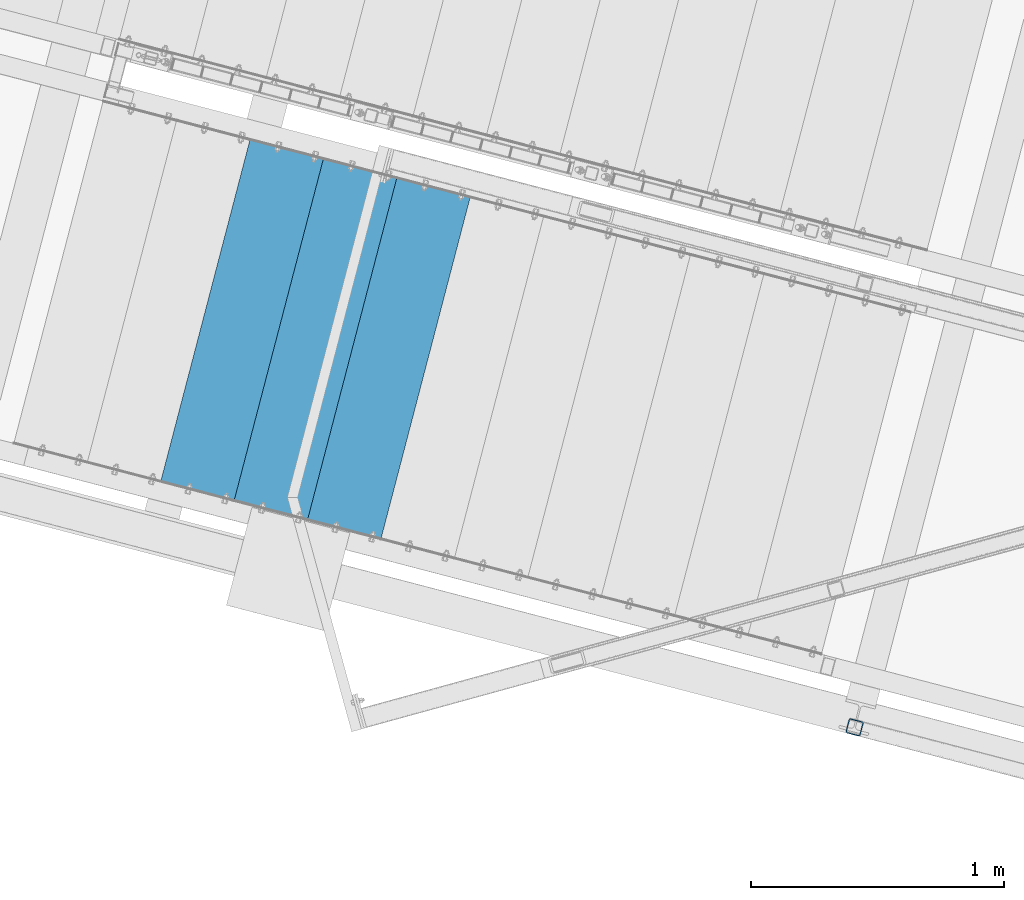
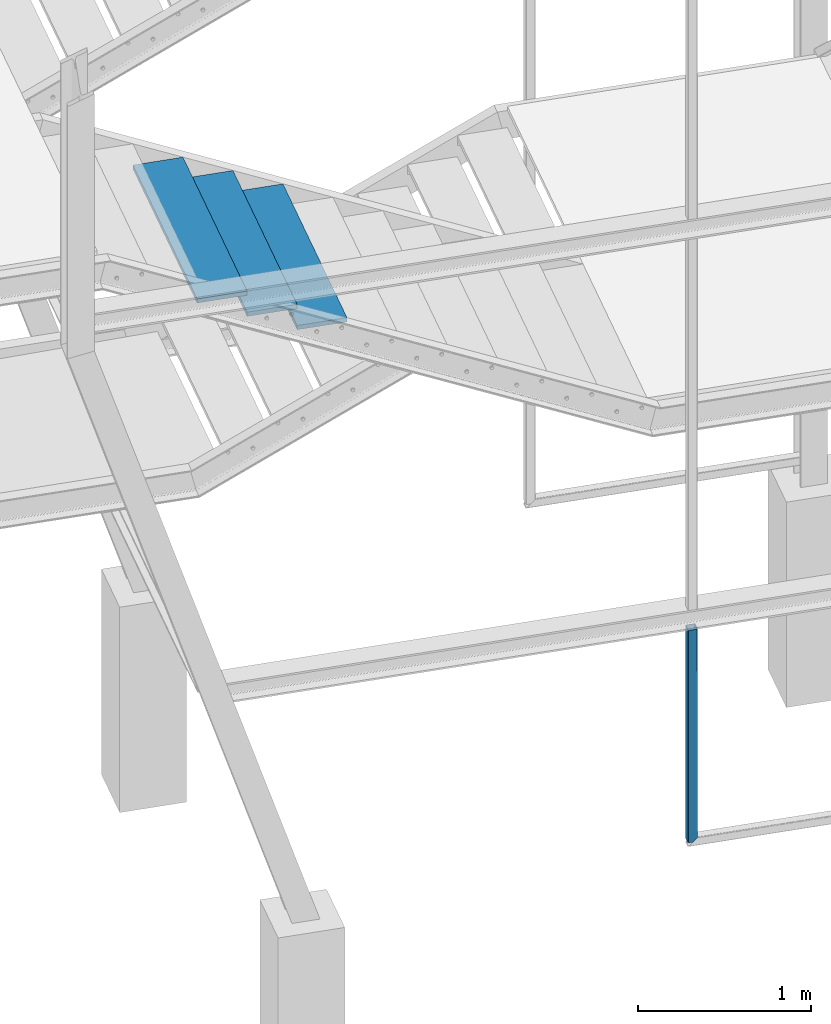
# One storey, part 36 of 169: 4 discrete accessories, 4 elements without a shape of their own.
"""IFC2X3 building model written with IfcOpenShell, lengths in millimetres."""

from ifc_helpers import new_model, si_unit, frame, origin_with_axes, origin_2d_with_axis, place, context, subcontext, project, spatial, polyline, hollow_rectangle, outline, extrude, clip, halfspace, material, type_object, element, aggregate, save


model = new_model("IFC2X3")

# Units and contexts
model_context = context("Model", 3, precision=1e-05, world=origin_with_axes())
body_context = subcontext(model_context, "Body", "Model", "MODEL_VIEW")
ifc_project = project(units=[si_unit("LENGTHUNIT", "METRE", prefix="MILLI"), si_unit("AREAUNIT", "SQUARE_METRE"), si_unit("VOLUMEUNIT", "CUBIC_METRE"), si_unit("MASSUNIT", "GRAM", prefix="KILO"), si_unit("TIMEUNIT", "SECOND"), si_unit("PLANEANGLEUNIT", "RADIAN"), si_unit("SOLIDANGLEUNIT", "STERADIAN"), si_unit("THERMODYNAMICTEMPERATUREUNIT", "DEGREE_CELSIUS"), si_unit("LUMINOUSINTENSITYUNIT", "LUMEN")], contexts=[model_context])

# Site, building, storey
site_placement = place(None, origin_with_axes())
site = spatial("IfcSite", under=ifc_project, at=site_placement, Name="Undefined", CompositionType="ELEMENT")
building_placement = place(site_placement, origin_with_axes())
building = spatial("IfcBuilding", under=site, at=building_placement, Name="Undefined", CompositionType="ELEMENT")
storey_placement = place(building_placement, origin_with_axes())
storey = spatial("IfcBuildingStorey", under=building, at=storey_placement, Name="Undefined", CompositionType="ELEMENT", Elevation=0.0)

# Assembly, discrete accessory
assembly_1_placement = place(storey_placement, origin_with_axes())
assembly_1 = element("IfcElementAssembly", 1, at=assembly_1_placement, inside=storey, Name="Steel Assembly", AssemblyPlace="NOTDEFINED", PredefinedType="RIGID_FRAME")
ifc_material_1 = material(Name="STEEL/S235")
discrete_accessory_type_1 = type_object("IfcDiscreteAccessoryType", Name="BEAM")
discrete_accessory_1_placement = place(assembly_1_placement, frame((-25012.0745869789, 4690.89749725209, 2710.45096846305), z_axis=(-0.967563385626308, 0.252628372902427, -1.72000000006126e-07), x_axis=(-3.45692487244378e-05, -0.000132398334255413, -0.999999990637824)))
discrete_accessory_1 = element("IfcDiscreteAccessory", 2, at=discrete_accessory_1_placement, type_object=discrete_accessory_type_1, material=ifc_material_1, Name="BEAM", ObjectType="SHS60*4", context=body_context, shape_type="Clipping", body=[
    clip(clip(extrude(hollow_rectangle(XDim=60.0, YDim=60.0, WallThickness=4.0, InnerFilletRadius=4.0, OuterFilletRadius=8.0, at=origin_2d_with_axis()), frame((1569.99999999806, -2.69527646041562e-14, -4.25549352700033e-17), z_axis=(-1.0, -3.46944695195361e-18, -1.38777878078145e-17), x_axis=(1.73472347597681e-18, -1.0, 0.0)), (0.0, 0.0, 1.0), 1500.0), halfspace(frame((1539.99999999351, 4.24233803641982e-09, -30.0000000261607), z_axis=(0.70710678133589, 2.34578304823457e-10, -0.707106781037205), x_axis=(1.73472347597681e-18, -1.0, 0.0)), False)), halfspace(frame((70.000000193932, 1.53045220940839e-09, 999.999999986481), z_axis=(1.0, 0.0, 0.0), x_axis=(0.0, 1.0, 0.0)), True)),
])
aggregate(assembly_1, [discrete_accessory_1])

assembly_2_placement = place(storey_placement, origin_with_axes())
assembly_2 = element("IfcElementAssembly", 3, at=assembly_2_placement, inside=storey, Name="Steel Assembly", AssemblyPlace="NOTDEFINED", PredefinedType="RIGID_FRAME")
ifc_material_2 = material(Name="STEEL/S235JR")
discrete_accessory_type_2 = type_object("IfcDiscreteAccessoryType", Name="STOPNIE")
discrete_accessory_2_placement = place(assembly_2_placement, frame((-27257.1607454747, 6977.61200189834, 5315.32164420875), z_axis=(-2.54700353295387e-10, 0.0, -1.0), x_axis=(-0.252694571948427, -0.96754609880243, 0.0)))
discrete_accessory_2 = element("IfcDiscreteAccessory", 4, at=discrete_accessory_2_placement, type_object=discrete_accessory_type_2, material=ifc_material_2, Name="STOPNIE", ObjectType="PL30*300", context=body_context, shape_type="SweptSolid", body=[
    extrude(outline(polyline([(1400.00000144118, 150.000000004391), (1400.0000014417, -149.999999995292), (3.45607986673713e-11, -150.00000000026), (-3.09228198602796e-11, 150.000000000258), (1400.00000144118, 150.000000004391)])), frame((1.81898940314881e-12, 3.72231275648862e-23, -15.0000000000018), z_axis=(0.0, 0.0, 1.0), x_axis=(1.0, 0.0, 0.0)), (0.0, 0.0, 1.0), 30.0),
])
aggregate(assembly_2, [discrete_accessory_2])

assembly_3_placement = place(storey_placement, origin_with_axes())
assembly_3 = element("IfcElementAssembly", 5, at=assembly_3_placement, inside=storey, Name="Steel Assembly", AssemblyPlace="NOTDEFINED", PredefinedType="RIGID_FRAME")
discrete_accessory_3_placement = place(assembly_3_placement, frame((-26966.8969124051, 6901.80362954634, 5165.32164420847), z_axis=(-2.54700353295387e-10, 0.0, -1.0), x_axis=(-0.252694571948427, -0.96754609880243, 0.0)))
discrete_accessory_3 = element("IfcDiscreteAccessory", 6, at=discrete_accessory_3_placement, type_object=discrete_accessory_type_2, material=ifc_material_2, Name="STOPNIE", ObjectType="PL30*300", context=body_context, shape_type="SweptSolid", body=[
    extrude(outline(polyline([(1400.00000144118, 150.000000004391), (1400.0000014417, -149.999999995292), (3.45607986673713e-11, -150.00000000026), (-3.09228198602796e-11, 150.000000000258), (1400.00000144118, 150.000000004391)])), frame((1.81898940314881e-12, 3.72231275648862e-23, -15.0000000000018), z_axis=(0.0, 0.0, 1.0), x_axis=(1.0, 0.0, 0.0)), (0.0, 0.0, 1.0), 30.0),
])
aggregate(assembly_3, [discrete_accessory_3])

assembly_4_placement = place(storey_placement, origin_with_axes())
assembly_4 = element("IfcElementAssembly", 7, at=assembly_4_placement, inside=storey, Name="Steel Assembly", AssemblyPlace="NOTDEFINED", PredefinedType="RIGID_FRAME")
discrete_accessory_4_placement = place(assembly_4_placement, frame((-26676.6330793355, 6825.99525719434, 5015.3216442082), z_axis=(-2.54700353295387e-10, 0.0, -1.0), x_axis=(-0.252694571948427, -0.96754609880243, 0.0)))
discrete_accessory_4 = element("IfcDiscreteAccessory", 8, at=discrete_accessory_4_placement, type_object=discrete_accessory_type_2, material=ifc_material_2, Name="STOPNIE", ObjectType="PL30*300", context=body_context, shape_type="SweptSolid", body=[
    extrude(outline(polyline([(1400.00000144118, 150.000000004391), (1400.0000014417, -149.999999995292), (3.45607986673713e-11, -150.00000000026), (-3.09228198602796e-11, 150.000000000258), (1400.00000144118, 150.000000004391)])), frame((1.81898940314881e-12, 3.72231275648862e-23, -15.0000000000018), z_axis=(0.0, 0.0, 1.0), x_axis=(1.0, 0.0, 0.0)), (0.0, 0.0, 1.0), 30.0),
])
aggregate(assembly_4, [discrete_accessory_4])

save(model, "model.ifc")
